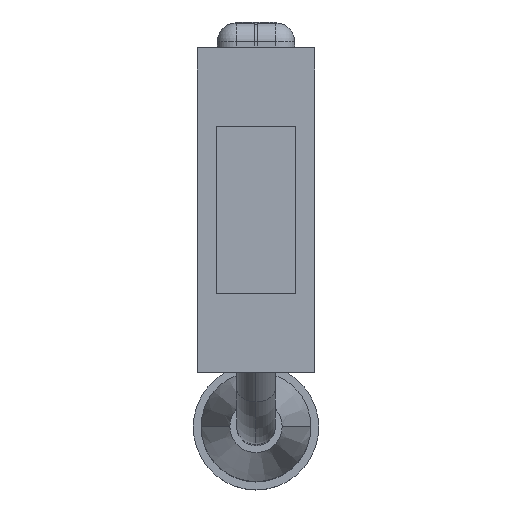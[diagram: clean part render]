
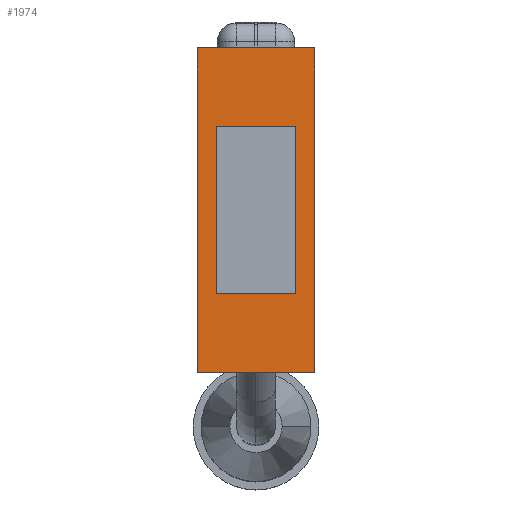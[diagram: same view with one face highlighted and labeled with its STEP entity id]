
A CAD part, top view. The second image highlights one B-rep face of the part: STEP entity #1974.
In plain terms, the highlighted planar face has unit normal (0, 0, 1).
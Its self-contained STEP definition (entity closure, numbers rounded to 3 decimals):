
#344 = CARTESIAN_POINT ( 'NONE',  ( 0., 0., 0. ) ) ;
#381 = CARTESIAN_POINT ( 'NONE',  ( 11.2, 0., 0. ) ) ;
#679 = CARTESIAN_POINT ( 'NONE',  ( 0., 31., 0. ) ) ;
#680 = DIRECTION ( 'NONE',  ( 0., -1., 0. ) ) ;
#681 = VECTOR ( 'NONE', #680, 1000. ) ;
#682 = CARTESIAN_POINT ( 'NONE',  ( 0., 0., 0. ) ) ;
#683 = LINE ( 'NONE', #682, #681 ) ;
#704 = DIRECTION ( 'NONE',  ( 0., -1., 0. ) ) ;
#705 = VECTOR ( 'NONE', #704, 1000. ) ;
#706 = CARTESIAN_POINT ( 'NONE',  ( 11.2, 0., 0. ) ) ;
#707 = LINE ( 'NONE', #706, #705 ) ;
#708 = CARTESIAN_POINT ( 'NONE',  ( 11.2, 31., 0. ) ) ;
#927 = CARTESIAN_POINT ( 'NONE',  ( 9.4, 23.5, 0. ) ) ;
#928 = CARTESIAN_POINT ( 'NONE',  ( 1.8, 23.5, 0. ) ) ;
#929 = DIRECTION ( 'NONE',  ( 0., -1., 0. ) ) ;
#930 = VECTOR ( 'NONE', #929, 1000. ) ;
#931 = CARTESIAN_POINT ( 'NONE',  ( 1.8, 23.5, 0. ) ) ;
#932 = LINE ( 'NONE', #931, #930 ) ;
#933 = CARTESIAN_POINT ( 'NONE',  ( 9.4, 7.5, 0. ) ) ;
#934 = CARTESIAN_POINT ( 'NONE',  ( 1.8, 7.5, 0. ) ) ;
#935 = DIRECTION ( 'NONE',  ( 1., 0., 0. ) ) ;
#936 = VECTOR ( 'NONE', #935, 1000. ) ;
#937 = CARTESIAN_POINT ( 'NONE',  ( 1.8, 7.5, 0. ) ) ;
#938 = LINE ( 'NONE', #937, #936 ) ;
#939 = DIRECTION ( 'NONE',  ( -1., 0., 0. ) ) ;
#940 = DIRECTION ( 'NONE',  ( 0., 0., -1. ) ) ;
#941 = CARTESIAN_POINT ( 'NONE',  ( 11.2, 0., 0. ) ) ;
#942 = AXIS2_PLACEMENT_3D ( 'NONE', #941, #940, #939 ) ;
#943 = PLANE ( 'NONE',  #942 ) ;
#944 = FACE_OUTER_BOUND ( 'NONE', #2001, .T. ) ;
#945 = FACE_BOUND ( 'NONE', #1975, .T. ) ;
#960 = DIRECTION ( 'NONE',  ( -1., 0., 0. ) ) ;
#961 = VECTOR ( 'NONE', #960, 1000. ) ;
#962 = CARTESIAN_POINT ( 'NONE',  ( 11.2, 0., 0. ) ) ;
#963 = LINE ( 'NONE', #962, #961 ) ;
#964 = DIRECTION ( 'NONE',  ( 0., 1., 0. ) ) ;
#965 = VECTOR ( 'NONE', #964, 1000. ) ;
#966 = CARTESIAN_POINT ( 'NONE',  ( 9.4, 23.5, 0. ) ) ;
#967 = LINE ( 'NONE', #966, #965 ) ;
#968 = DIRECTION ( 'NONE',  ( -1., 0., 0. ) ) ;
#969 = VECTOR ( 'NONE', #968, 1000. ) ;
#970 = CARTESIAN_POINT ( 'NONE',  ( 1.8, 23.5, 0. ) ) ;
#971 = LINE ( 'NONE', #970, #969 ) ;
#1035 = DIRECTION ( 'NONE',  ( -1., 0., 0. ) ) ;
#1036 = VECTOR ( 'NONE', #1035, 1000. ) ;
#1037 = CARTESIAN_POINT ( 'NONE',  ( 11.2, 31., 0. ) ) ;
#1038 = LINE ( 'NONE', #1037, #1036 ) ;
#1733 = VERTEX_POINT ( 'NONE', #381 ) ;
#1788 = VERTEX_POINT ( 'NONE', #344 ) ;
#1820 = EDGE_CURVE ( 'NONE', #1821, #1788, #683, .T. ) ;
#1821 = VERTEX_POINT ( 'NONE', #679 ) ;
#1841 = VERTEX_POINT ( 'NONE', #708 ) ;
#1843 = EDGE_CURVE ( 'NONE', #1841, #1733, #707, .T. ) ;
#1974 = ADVANCED_FACE ( 'NONE', ( #945, #944 ), #943, .F. ) ;
#1975 = EDGE_LOOP ( 'NONE', ( #1976, #1980, #1997, #1999 ) ) ;
#1976 = ORIENTED_EDGE ( 'NONE', *, *, #1977, .F. ) ;
#1977 = EDGE_CURVE ( 'NONE', #1978, #1979, #938, .T. ) ;
#1978 = VERTEX_POINT ( 'NONE', #934 ) ;
#1979 = VERTEX_POINT ( 'NONE', #933 ) ;
#1980 = ORIENTED_EDGE ( 'NONE', *, *, #1981, .F. ) ;
#1981 = EDGE_CURVE ( 'NONE', #1982, #1978, #932, .T. ) ;
#1982 = VERTEX_POINT ( 'NONE', #928 ) ;
#1983 = VERTEX_POINT ( 'NONE', #927 ) ;
#1997 = ORIENTED_EDGE ( 'NONE', *, *, #1998, .F. ) ;
#1998 = EDGE_CURVE ( 'NONE', #1983, #1982, #971, .T. ) ;
#1999 = ORIENTED_EDGE ( 'NONE', *, *, #2000, .F. ) ;
#2000 = EDGE_CURVE ( 'NONE', #1979, #1983, #967, .T. ) ;
#2001 = EDGE_LOOP ( 'NONE', ( #2002, #2003, #2005, #2006 ) ) ;
#2002 = ORIENTED_EDGE ( 'NONE', *, *, #1820, .T. ) ;
#2003 = ORIENTED_EDGE ( 'NONE', *, *, #2004, .F. ) ;
#2004 = EDGE_CURVE ( 'NONE', #1733, #1788, #963, .T. ) ;
#2005 = ORIENTED_EDGE ( 'NONE', *, *, #1843, .F. ) ;
#2006 = ORIENTED_EDGE ( 'NONE', *, *, #2031, .T. ) ;
#2031 = EDGE_CURVE ( 'NONE', #1841, #1821, #1038, .T. ) ;
